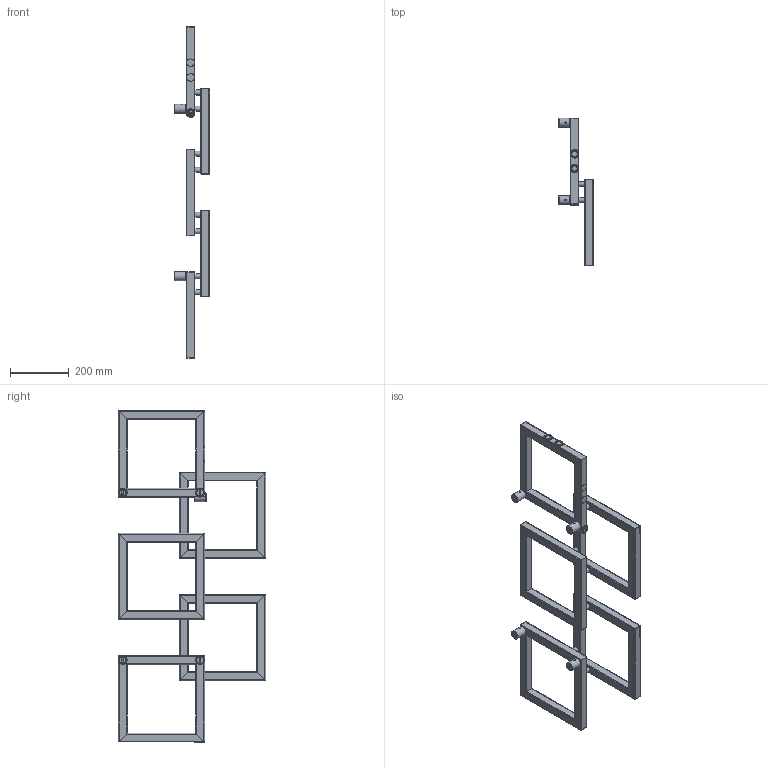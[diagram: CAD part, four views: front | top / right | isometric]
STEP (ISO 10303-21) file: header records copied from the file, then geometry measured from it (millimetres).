
FILE_DESCRIPTION( ( 'Unknown' ), '1' );
FILE_NAME( 'V:/DESIGN PROGRAM/LOCO mini/STP/LOCO 5 mini.stp', 'Unknown', ( 'Unknown' ), ( 'Unknown' ), 'PSStep 10.1', 'Unknown', ' ' );
FILE_SCHEMA( ( 'AUTOMOTIVE_DESIGN { 1 0 10303 214 1 1 1 1 }' ) );
Length unit declared in the file: millimetre
Products named in the file (30): Mocowanie L40; Ramka 2; Ramka 3; Assem1; Ramka 1; czêœæ 3-oa0; czêœæ 1-oa1; czêœæ 5; czêœæ 6; czêœæ 3-oa2; czêœæ 3-oa3; czêœæ 1-oa4; czêœæ 2-oa5; czêœæ 3; czêœæ 1; czêœæ 2; czêœæ 4; MOCOWANIE L40-01; MOCOWANIE FASOLKA; MOCOWANIE L40-03; ｳｹcznik ; ｳｹcznik -oa6; ｳｹcznik -oa7; ｳｹcznik -oa8; ｳｹcznik -oa9; ｳｹcznik -oa10; ｳｹcznik -oa11; ｳｹcznik -oa12; Zaslepka fi 30 z gwintem ; Zaslepka fi 30 z gwintem -oa13
Bounding box: 120 x 500 x 1125.5 mm (x, y, z)
Volume: 2041142.8 mm3; surface area: 2666927.6 mm2
Topology: 82 solids, 82 shells, 1140 faces, 2898 edges, 1940 vertices
Faces by surface type: plane 582, cylinder 520, cone 30, torus 8
Full cylindrical faces by diameter (mm): 4.917 x6, 12.5 x16, 15.5 x16, 16.3 x16, 16.5 x32, 17 x6, 17.2 x16, 18.631 x4, 20 x6, 22 x6, 22.7 x6, 23 x6, 25 x4, 25.25 x6, 29 x4, 30 x6
Entity records: 12909 total; most frequent: CARTESIAN_POINT 1812, DIRECTION 1770, ORIENTED_EDGE 1454, EDGE_CURVE 727, AXIS2_PLACEMENT_3D 685, VERTEX_POINT 523, EDGE_LOOP 484, LINE 400
